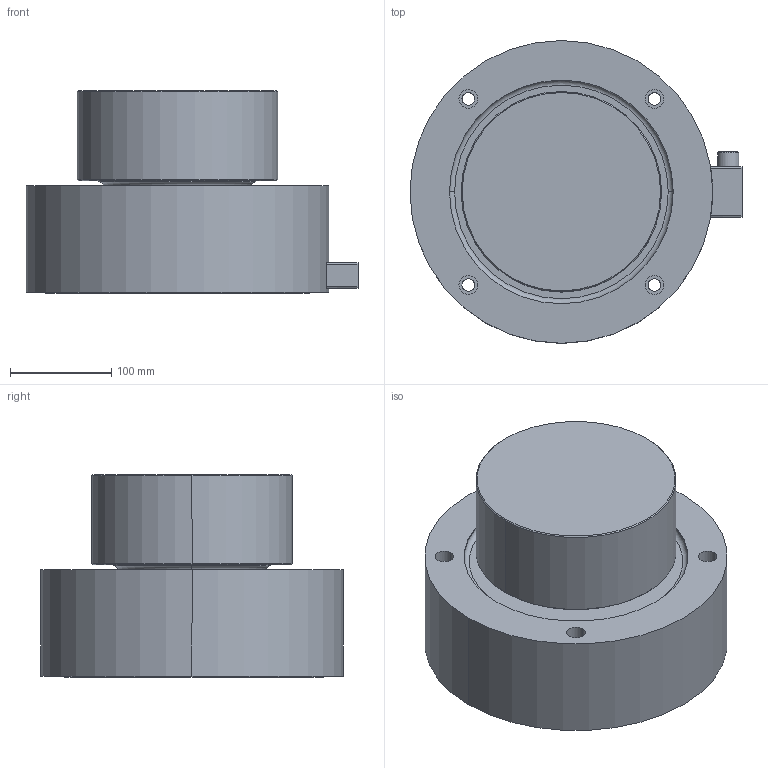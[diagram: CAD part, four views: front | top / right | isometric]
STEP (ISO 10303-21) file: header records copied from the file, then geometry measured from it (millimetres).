
FILE_DESCRIPTION((''),'1');
FILE_NAME('LKLF_500000-750000_kg.step','2019-02-08T08:36:32',(''),(''),'','','');
FILE_SCHEMA(('AUTOMOTIVE_DESIGN { 1 0 10303 214 1 1 1 1 }'));
Length unit declared in the file: metre
Products named in the file (5): LKLF 500000-750000_kg; LKLF base 01; LKLF body 01; LKLF part 02; LKLF part 03
Assembly tree (4 placements, depth 2):
  LKLF 500000-750000_kg
    LKLF base 01
    LKLF body 01
    LKLF part 02
    LKLF part 03
Bounding box: 327.9 x 299 x 200 mm (x, y, z)
Volume: 10010524.3 mm3; surface area: 400466.5 mm2
Topology: 4 solids, 4 shells, 83 faces, 186 edges, 118 vertices
Faces by surface type: cylinder 43, plane 21, cone 12, torus 6, sphere 1
Entity records: 3530 total; most frequent: CARTESIAN_POINT 776, DIRECTION 460, ORIENTED_EDGE 372, AXIS2_PLACEMENT_3D 198, EDGE_CURVE 186, VERTEX_POINT 118, CIRCLE 110, EDGE_LOOP 100
